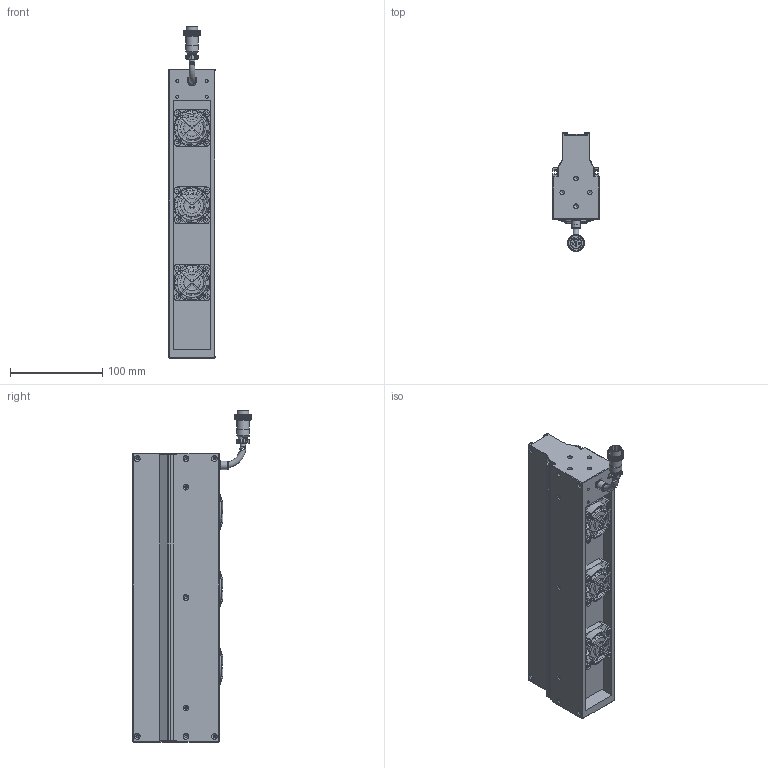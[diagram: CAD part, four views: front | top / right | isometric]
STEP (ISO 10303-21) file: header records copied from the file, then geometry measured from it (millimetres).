
FILE_DESCRIPTION (( 'STEP AP203' ), '1' );
FILE_NAME ('OPT-LSS314-W-V3.1U尨砩芞.STEP', '2025-01-21T00:52:49', ( 'USER' ), ( '' ), 'SwSTEP 2.0', 'SolidWorks 2016', '' );
FILE_SCHEMA (( 'CONFIG_CONTROL_DESIGN' ));
Products named in the file (2): OPT-LSS314-W-V3.1U尨砩芞
Bounding box: 50 x 129.15 x 360.83 mm (x, y, z)
Volume: 1064434.8 mm3; surface area: 188924.5 mm2
Topology: 18 solids, 30 shells, 3953 faces, 8752 edges, 4941 vertices
Faces by surface type: bspline 2140, cylinder 836, plane 751, torus 173, cone 53
Full cylindrical faces by diameter (mm): 0.95 x6, 1.1 x2, 1.4 x2, 1.6 x12, 2 x7, 2.5 x18, 3.2 x16, 3.4 x18, 3.5 x8, 5 x8, 6.2 x12, 6.4 x3, 7.5 x1, 8.6 x1, 9.3 x1, 9.8 x1, 10 x1, 13.2 x1, 14 x1, 16.1 x1, 24.8 x3, 38 x3
Entity records: 132594 total; most frequent: CARTESIAN_POINT 65755, ORIENTED_EDGE 16844, EDGE_CURVE 8422, DIRECTION 7194, B_SPLINE_CURVE_WITH_KNOTS 5729, VERTEX_POINT 4864, EDGE_LOOP 4322, FACE_OUTER_BOUND 4141
